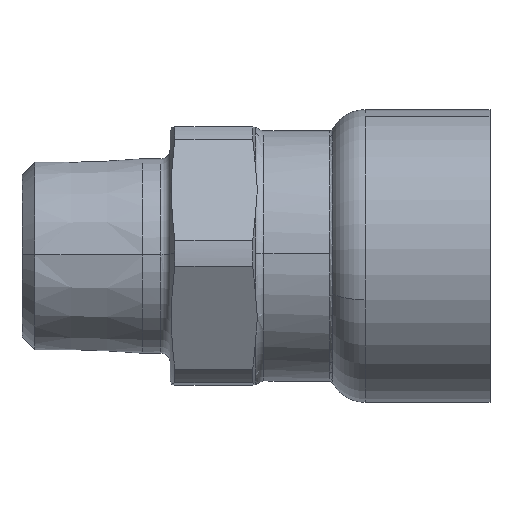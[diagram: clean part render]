
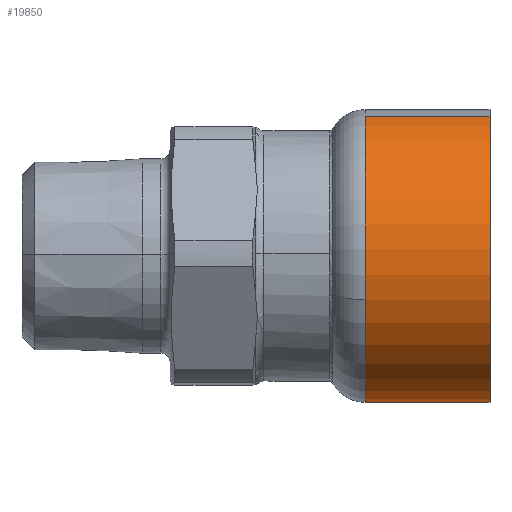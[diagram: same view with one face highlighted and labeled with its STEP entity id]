
A CAD part, top view. The second image highlights one B-rep face of the part: STEP entity #19850.
In plain terms, the highlighted cylindrical face has radius 16.025 mm (diameter 32.05 mm), a partial arc.
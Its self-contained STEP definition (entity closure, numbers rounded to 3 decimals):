
#19340=CARTESIAN_POINT('',(0.,0.,
33.293));
#19350=DIRECTION('',(0.,0.,-1.));
#19360=DIRECTION('',(-0.317,0.948,
0.));
#19370=AXIS2_PLACEMENT_3D('',#19340,#19350,#19360);
#19380=CIRCLE('',#19370,16.025);
#19390=CARTESIAN_POINT('',(-5.082,15.198,
33.293));
#19400=VERTEX_POINT('',#19390);
#19410=CARTESIAN_POINT('',(5.082,-15.198,
33.293));
#19420=VERTEX_POINT('',#19410);
#19450=EDGE_CURVE('',#19420,#19400,#19380,.T.);
#19500=CARTESIAN_POINT('',(0.,0.,
26.347));
#19510=DIRECTION('',(0.,0.,-1.));
#19520=DIRECTION('',(-0.317,0.948,
0.));
#19530=AXIS2_PLACEMENT_3D('',#19500,#19510,#19520);
#19540=CYLINDRICAL_SURFACE('',#19530,16.025);
#19550=CARTESIAN_POINT('',(5.082,-15.198,
26.347));
#19560=DIRECTION('',(0.,0.,-1.));
#19570=VECTOR('',#19560,1.);
#19580=LINE('',#19550,#19570);
#19590=CARTESIAN_POINT('',(5.082,-15.198,
19.626));
#19600=VERTEX_POINT('',#19590);
#19610=EDGE_CURVE('',#19420,#19600,#19580,.T.);
#19620=ORIENTED_EDGE('',*,*,#19610,.F.);
#19630=CARTESIAN_POINT('',(0.,0.,
19.626));
#19640=DIRECTION('',(0.,0.,-1.));
#19650=DIRECTION('',(0.948,0.317,
0.));
#19660=AXIS2_PLACEMENT_3D('',#19630,#19640,#19650);
#19670=CIRCLE('',#19660,16.025);
#19680=CARTESIAN_POINT('',(-15.198,-5.082,
19.626));
#19690=VERTEX_POINT('',#19680);
#19700=EDGE_CURVE('',#19600,#19690,#19670,.T.);
#19710=ORIENTED_EDGE('',*,*,#19700,.F.);
#19720=CARTESIAN_POINT('',(-5.082,15.198,
19.626));
#19730=VERTEX_POINT('',#19720);
#19740=EDGE_CURVE('',#19690,#19730,#19670,.T.);
#19750=ORIENTED_EDGE('',*,*,#19740,.F.);
#19760=CARTESIAN_POINT('',(-5.082,15.198,
26.347));
#19770=DIRECTION('',(0.,0.,-1.));
#19780=VECTOR('',#19770,1.);
#19790=LINE('',#19760,#19780);
#19800=EDGE_CURVE('',#19400,#19730,#19790,.T.);
#19810=ORIENTED_EDGE('',*,*,#19800,.T.);
#19820=ORIENTED_EDGE('',*,*,#19450,.T.);
#19830=EDGE_LOOP('',(#19820,#19810,#19750,#19710,#19620));
#19840=FACE_OUTER_BOUND('',#19830,.T.);
#19850=ADVANCED_FACE('',(#19840),#19540,.T.);
